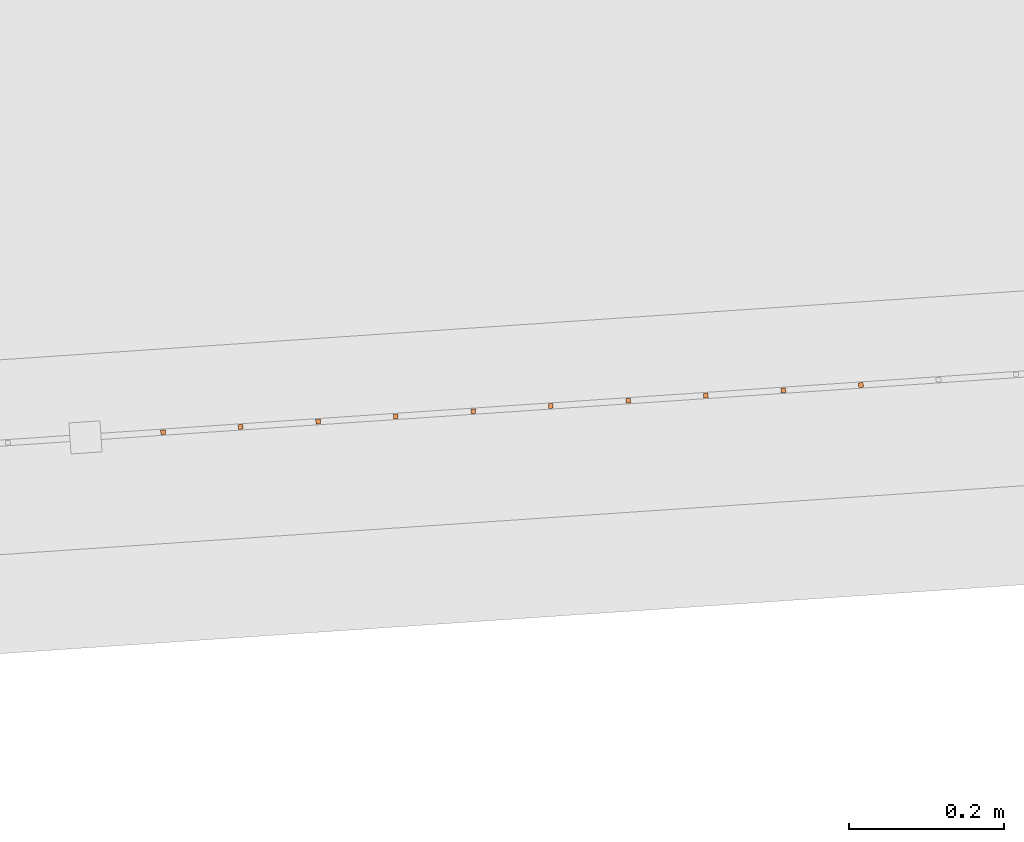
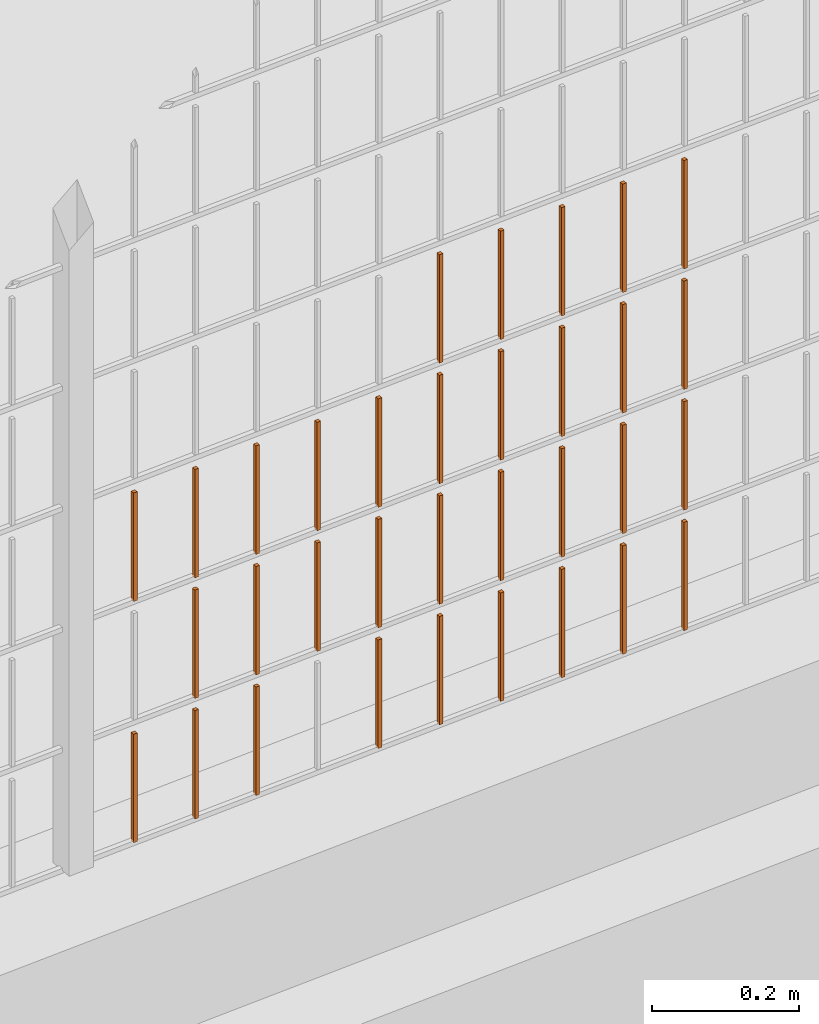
# One storey, part 307 of 1809: 33 proxies, 1 element without a shape of its own.
"""IFC2X3 building model written with IfcOpenShell, lengths in millimetres."""

from ifc_helpers import new_model, entity, si_unit, converted_unit, derived_unit, money_unit, direction, frame, origin_with_axes, place, context, subcontext, project, spatial, faceted_brep, source, transform, mapped, material, type_object, element, aggregate, save


model = new_model("IFC2X3")

# Units and contexts
model_context = context("Model", 3, precision=0.01, world=origin_with_axes(), true_north=direction((0.0, 1.0)))
body_context = subcontext(model_context, "Body", "Model", "MODEL_VIEW")
ifc_project = project(units=[si_unit("LENGTHUNIT", "METRE", prefix="MILLI"), si_unit("AREAUNIT", "SQUARE_METRE"), si_unit("VOLUMEUNIT", "CUBIC_METRE"), converted_unit("PLANEANGLEUNIT", "DEGREE", entity("IfcPlaneAngleMeasure", 0.0174532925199), si_unit("PLANEANGLEUNIT", "RADIAN"), dimensions=[0, 0, 0, 0, 0, 0, 0]), si_unit("SOLIDANGLEUNIT", "STERADIAN"), money_unit("EUR"), converted_unit("TIMEUNIT", "Year", entity("IfcTimeMeasure", 31556926.0), si_unit("TIMEUNIT", "SECOND"), dimensions=[0, 0, 1, 0, 0, 0, 0]), si_unit("MASSUNIT", "GRAM", prefix="KILO"), si_unit("THERMODYNAMICTEMPERATUREUNIT", "DEGREE_CELSIUS"), si_unit("LUMINOUSINTENSITYUNIT", "LUMEN"), si_unit("ENERGYUNIT", "JOULE", prefix="MEGA"), derived_unit("THERMALCONDUCTANCEUNIT", [(si_unit("POWERUNIT", "WATT"), 1), (si_unit("LENGTHUNIT", "METRE"), -1), (si_unit("THERMODYNAMICTEMPERATUREUNIT", "KELVIN"), -1)]), derived_unit("SPECIFICHEATCAPACITYUNIT", [(si_unit("ENERGYUNIT", "JOULE"), 1), (si_unit("MASSUNIT", "GRAM", prefix="KILO"), -1), (si_unit("THERMODYNAMICTEMPERATUREUNIT", "KELVIN"), -1)]), derived_unit("MASSDENSITYUNIT", [(si_unit("MASSUNIT", "GRAM", prefix="KILO"), 1), (si_unit("VOLUMEUNIT", "CUBIC_METRE"), -1)])], contexts=[model_context])

# Site, building, storey
site_placement = place(None, origin_with_axes())
site = spatial("IfcSite", under=ifc_project, at=site_placement, Name="Politse- ja Piirivalveameti ning Päästeameti ühishoone", CompositionType="ELEMENT")
building_placement = place(site_placement, origin_with_axes())
building = spatial("IfcBuilding", under=site, at=building_placement, Name="Politse- ja Piirivalveameti ning Päästeameti ühishoone", CompositionType="ELEMENT")
storey_placement = place(building_placement, origin_with_axes())
storey = spatial("IfcBuildingStorey", under=building, at=storey_placement, Name="Esimene korrus", CompositionType="ELEMENT", Elevation=0.0)

# Proxies
building_element_proxy_type_1 = type_object("IfcBuildingElementProxyType", Name="Railing Type", PredefinedType="NOTDEFINED")
proxy_1_placement = place(storey_placement, frame((89252.001212, -29183.4766571, 203.661247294), z_axis=(0.0, 0.0, 1.0), x_axis=(1.0, 0.0, 0.0)))
proxy_1 = element("IfcBuildingElementProxy", 1, at=proxy_1_placement, inside=storey, type_object=building_element_proxy_type_1, Name="PIIRDEAED")
ifc_material = material(Name="ET-03_Raud")
building_element_proxy_type_2 = type_object("IfcBuildingElementProxyType", Name="IfcBuildingElementProxy", PredefinedType="NOTDEFINED")
shared_shape_1 = source(origin_with_axes(), body_context, "Body", "Brep", [
    faceted_brep([(3.0, 3.0, -0.000752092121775), (-3.0, 3.0, -0.000752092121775), (-3.0, 3.0, 179.99926046), (3.0, 3.0, 179.99926046), (3.0, -3.0, 0.000752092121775), (-3.0, -3.0, 0.000752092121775), (-3.0, -3.0, 180.000764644), (3.0, -3.0, 180.000764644)], [[[0, 1, 2, 3]], [[0, 4, 5, 1]], [[1, 5, 6, 2]], [[3, 2, 6, 7]], [[4, 0, 3, 7]], [[5, 4, 7, 6]]]),
])
proxy_2_placement = place(proxy_1_placement, frame((-41631.8236059, -20109.8473334, 416.773614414), z_axis=(0.0, 0.0, 1.0), x_axis=(1.0, 0.0, 0.0)))
proxy_2 = element("IfcBuildingElementProxy", 2, at=proxy_2_placement, type_object=building_element_proxy_type_2, material=ifc_material, Name="BALUSTER - 001", context=body_context, shape_type="MappedRepresentation", body=[
    mapped(shared_shape_1, transform((0.0, 0.0, 0.0), x_axis=(-0.0673926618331, 0.997726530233, 0.0), y_axis=(-0.997726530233, -0.0673926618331, 0.0), z_axis=(0.0, 0.0, 1.0))),
])
shared_shape_2 = source(origin_with_axes(), body_context, "Body", "Brep", [
    faceted_brep([(3.0, 3.0, -0.000752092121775), (-3.0, 3.0, -0.000752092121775), (-3.0, 3.0, 179.99926046), (3.0, 3.0, 179.99926046), (3.0, -3.0, 0.000752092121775), (-3.0, -3.0, 0.000752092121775), (-3.0, -3.0, 180.000764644), (3.0, -3.0, 180.000764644)], [[[0, 1, 2, 3]], [[0, 4, 5, 1]], [[1, 5, 6, 2]], [[3, 2, 6, 7]], [[4, 0, 3, 7]], [[5, 4, 7, 6]]]),
])
proxy_3_placement = place(proxy_1_placement, frame((-41631.8236059, -20109.8473334, 616.773614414), z_axis=(0.0, 0.0, 1.0), x_axis=(1.0, 0.0, 0.0)))
proxy_3 = element("IfcBuildingElementProxy", 3, at=proxy_3_placement, type_object=building_element_proxy_type_2, material=ifc_material, Name="BALUSTER - 001", context=body_context, shape_type="MappedRepresentation", body=[
    mapped(shared_shape_2, transform((0.0, 0.0, 0.0), x_axis=(-0.0673926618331, 0.997726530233, 0.0), y_axis=(-0.997726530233, -0.0673926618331, 0.0), z_axis=(0.0, 0.0, 1.0))),
])
shared_shape_3 = source(origin_with_axes(), body_context, "Body", "Brep", [
    faceted_brep([(3.0, 3.0, -0.000752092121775), (-3.0, 3.0, -0.000752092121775), (-3.0, 3.0, 179.99926046), (3.0, 3.0, 179.99926046), (3.0, -3.0, 0.000752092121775), (-3.0, -3.0, 0.000752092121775), (-3.0, -3.0, 180.000764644), (3.0, -3.0, 180.000764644)], [[[0, 1, 2, 3]], [[0, 4, 5, 1]], [[1, 5, 6, 2]], [[3, 2, 6, 7]], [[4, 0, 3, 7]], [[5, 4, 7, 6]]]),
])
proxy_4_placement = place(proxy_1_placement, frame((-41631.8236059, -20109.8473334, 16.7736144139), z_axis=(0.0, 0.0, 1.0), x_axis=(1.0, 0.0, 0.0)))
proxy_4 = element("IfcBuildingElementProxy", 4, at=proxy_4_placement, type_object=building_element_proxy_type_2, material=ifc_material, Name="BALUSTER - 001", context=body_context, shape_type="MappedRepresentation", body=[
    mapped(shared_shape_3, transform((0.0, 0.0, 0.0), x_axis=(-0.0673926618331, 0.997726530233, 0.0), y_axis=(-0.997726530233, -0.0673926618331, 0.0), z_axis=(0.0, 0.0, 1.0))),
])
shared_shape_4 = source(origin_with_axes(), body_context, "Body", "Brep", [
    faceted_brep([(3.0, 3.0, -0.000752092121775), (-3.0, 3.0, -0.000752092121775), (-3.0, 3.0, 179.99926046), (3.0, 3.0, 179.99926046), (3.0, -3.0, 0.000752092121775), (-3.0, -3.0, 0.000752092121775), (-3.0, -3.0, 180.000764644), (3.0, -3.0, 180.000764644)], [[[0, 1, 2, 3]], [[0, 4, 5, 1]], [[1, 5, 6, 2]], [[3, 2, 6, 7]], [[4, 0, 3, 7]], [[5, 4, 7, 6]]]),
])
proxy_5_placement = place(proxy_1_placement, frame((-41631.8236059, -20109.8473334, 216.773614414), z_axis=(0.0, 0.0, 1.0), x_axis=(1.0, 0.0, 0.0)))
proxy_5 = element("IfcBuildingElementProxy", 5, at=proxy_5_placement, type_object=building_element_proxy_type_2, material=ifc_material, Name="BALUSTER - 001", context=body_context, shape_type="MappedRepresentation", body=[
    mapped(shared_shape_4, transform((0.0, 0.0, 0.0), x_axis=(-0.0673926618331, 0.997726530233, 0.0), y_axis=(-0.997726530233, -0.0673926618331, 0.0), z_axis=(0.0, 0.0, 1.0))),
])
shared_shape_5 = source(origin_with_axes(), body_context, "Body", "Brep", [
    faceted_brep([(3.0, 3.0, -0.000752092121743), (-3.0, 3.0, -0.000752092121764), (-3.0, 3.0, 179.99926046), (3.0, 3.0, 179.99926046), (3.0, -3.0, 0.000752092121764), (-3.0, -3.0, 0.000752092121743), (-3.0, -3.0, 180.000764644), (3.0, -3.0, 180.000764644)], [[[0, 1, 2, 3]], [[0, 4, 5, 1]], [[1, 5, 6, 2]], [[3, 2, 6, 7]], [[4, 0, 3, 7]], [[5, 4, 7, 6]]]),
])
proxy_6_placement = place(proxy_1_placement, frame((-41931.141565, -20130.0651319, 416.698405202), z_axis=(0.0, 0.0, 1.0), x_axis=(1.0, 0.0, 0.0)))
proxy_6 = element("IfcBuildingElementProxy", 6, at=proxy_6_placement, type_object=building_element_proxy_type_2, material=ifc_material, Name="BALUSTER - 001", context=body_context, shape_type="MappedRepresentation", body=[
    mapped(shared_shape_5, transform((0.0, 0.0, 0.0), x_axis=(-0.0673926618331, 0.997726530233, 0.0), y_axis=(-0.997726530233, -0.0673926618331, 0.0), z_axis=(0.0, 0.0, 1.0))),
])
shared_shape_6 = source(origin_with_axes(), body_context, "Body", "Brep", [
    faceted_brep([(3.0, 3.0, -0.000752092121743), (-3.0, 3.0, -0.000752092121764), (-3.0, 3.0, 179.99926046), (3.0, 3.0, 179.99926046), (3.0, -3.0, 0.000752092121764), (-3.0, -3.0, 0.000752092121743), (-3.0, -3.0, 180.000764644), (3.0, -3.0, 180.000764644)], [[[0, 1, 2, 3]], [[0, 4, 5, 1]], [[1, 5, 6, 2]], [[3, 2, 6, 7]], [[4, 0, 3, 7]], [[5, 4, 7, 6]]]),
])
proxy_7_placement = place(proxy_1_placement, frame((-41931.141565, -20130.0651319, 216.698405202), z_axis=(0.0, 0.0, 1.0), x_axis=(1.0, 0.0, 0.0)))
proxy_7 = element("IfcBuildingElementProxy", 7, at=proxy_7_placement, type_object=building_element_proxy_type_2, material=ifc_material, Name="BALUSTER - 001", context=body_context, shape_type="MappedRepresentation", body=[
    mapped(shared_shape_6, transform((0.0, 0.0, 0.0), x_axis=(-0.0673926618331, 0.997726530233, 0.0), y_axis=(-0.997726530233, -0.0673926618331, 0.0), z_axis=(0.0, 0.0, 1.0))),
])
shared_shape_7 = source(origin_with_axes(), body_context, "Body", "Brep", [
    faceted_brep([(3.0, 3.0, -0.000752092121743), (-3.0, 3.0, -0.000752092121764), (-3.0, 3.0, 179.99926046), (3.0, 3.0, 179.99926046), (3.0, -3.0, 0.000752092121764), (-3.0, -3.0, 0.000752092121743), (-3.0, -3.0, 180.000764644), (3.0, -3.0, 180.000764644)], [[[0, 1, 2, 3]], [[0, 4, 5, 1]], [[1, 5, 6, 2]], [[3, 2, 6, 7]], [[4, 0, 3, 7]], [[5, 4, 7, 6]]]),
])
proxy_8_placement = place(proxy_1_placement, frame((-41931.141565, -20130.0651319, 16.6984052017), z_axis=(0.0, 0.0, 1.0), x_axis=(1.0, 0.0, 0.0)))
proxy_8 = element("IfcBuildingElementProxy", 8, at=proxy_8_placement, type_object=building_element_proxy_type_2, material=ifc_material, Name="BALUSTER - 001", context=body_context, shape_type="MappedRepresentation", body=[
    mapped(shared_shape_7, transform((0.0, 0.0, 0.0), x_axis=(-0.0673926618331, 0.997726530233, 0.0), y_axis=(-0.997726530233, -0.0673926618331, 0.0), z_axis=(0.0, 0.0, 1.0))),
])
shared_shape_8 = source(origin_with_axes(), body_context, "Body", "Brep", [
    faceted_brep([(3.0, 3.0, -0.000752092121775), (-3.0, 3.0, -0.000752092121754), (-3.0, 3.0, 179.99926046), (3.0, 3.0, 179.99926046), (3.0, -3.0, 0.000752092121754), (-3.0, -3.0, 0.000752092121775), (-3.0, -3.0, 180.000764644), (3.0, -3.0, 180.000764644)], [[[0, 1, 2, 3]], [[0, 4, 5, 1]], [[1, 5, 6, 2]], [[3, 2, 6, 7]], [[4, 0, 3, 7]], [[5, 4, 7, 6]]]),
])
proxy_9_placement = place(proxy_1_placement, frame((-42130.686871, -20143.5436643, 16.6482657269), z_axis=(0.0, 0.0, 1.0), x_axis=(1.0, 0.0, 0.0)))
proxy_9 = element("IfcBuildingElementProxy", 9, at=proxy_9_placement, type_object=building_element_proxy_type_2, material=ifc_material, Name="BALUSTER - 001", context=body_context, shape_type="MappedRepresentation", body=[
    mapped(shared_shape_8, transform((0.0, 0.0, 0.0), x_axis=(-0.0673926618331, 0.997726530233, 0.0), y_axis=(-0.997726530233, -0.0673926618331, 0.0), z_axis=(0.0, 0.0, 1.0))),
])
shared_shape_9 = source(origin_with_axes(), body_context, "Body", "Brep", [
    faceted_brep([(3.0, 3.0, -0.000752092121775), (-3.0, 3.0, -0.000752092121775), (-3.0, 3.0, 179.99926046), (3.0, 3.0, 179.99926046), (3.0, -3.0, 0.000752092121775), (-3.0, -3.0, 0.000752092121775), (-3.0, -3.0, 180.000764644), (3.0, -3.0, 180.000764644)], [[[0, 1, 2, 3]], [[0, 4, 5, 1]], [[1, 5, 6, 2]], [[3, 2, 6, 7]], [[4, 0, 3, 7]], [[5, 4, 7, 6]]]),
])
proxy_10_placement = place(proxy_1_placement, frame((-41432.2782999, -20096.368801, 216.823753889), z_axis=(0.0, 0.0, 1.0), x_axis=(1.0, 0.0, 0.0)))
proxy_10 = element("IfcBuildingElementProxy", 10, at=proxy_10_placement, type_object=building_element_proxy_type_2, material=ifc_material, Name="BALUSTER - 001", context=body_context, shape_type="MappedRepresentation", body=[
    mapped(shared_shape_9, transform((0.0, 0.0, 0.0), x_axis=(-0.0673926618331, 0.997726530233, 0.0), y_axis=(-0.997726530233, -0.0673926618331, 0.0), z_axis=(0.0, 0.0, 1.0))),
])
proxy_11_placement = place(proxy_1_placement, frame((-41432.2782999, -20096.368801, 616.823753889), z_axis=(0.0, 0.0, 1.0), x_axis=(1.0, 0.0, 0.0)))
proxy_11 = element("IfcBuildingElementProxy", 11, at=proxy_11_placement, type_object=building_element_proxy_type_2, material=ifc_material, Name="BALUSTER - 001", context=body_context, shape_type="MappedRepresentation", body=[
    mapped(shared_shape_9, transform((0.0, 0.0, 0.0), x_axis=(-0.0673926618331, 0.997726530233, 0.0), y_axis=(-0.997726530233, -0.0673926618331, 0.0), z_axis=(0.0, 0.0, 1.0))),
])
shared_shape_10 = source(origin_with_axes(), body_context, "Body", "Brep", [
    faceted_brep([(3.0, 3.0, -0.000752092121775), (-3.0, 3.0, -0.000752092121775), (-3.0, 3.0, 179.99926046), (3.0, 3.0, 179.99926046), (3.0, -3.0, 0.000752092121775), (-3.0, -3.0, 0.000752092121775), (-3.0, -3.0, 180.000764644), (3.0, -3.0, 180.000764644)], [[[0, 1, 2, 3]], [[0, 4, 5, 1]], [[1, 5, 6, 2]], [[3, 2, 6, 7]], [[4, 0, 3, 7]], [[5, 4, 7, 6]]]),
])
proxy_12_placement = place(proxy_1_placement, frame((-41432.2782999, -20096.368801, 16.8237538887), z_axis=(0.0, 0.0, 1.0), x_axis=(1.0, 0.0, 0.0)))
proxy_12 = element("IfcBuildingElementProxy", 12, at=proxy_12_placement, type_object=building_element_proxy_type_2, material=ifc_material, Name="BALUSTER - 001", context=body_context, shape_type="MappedRepresentation", body=[
    mapped(shared_shape_10, transform((0.0, 0.0, 0.0), x_axis=(-0.0673926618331, 0.997726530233, 0.0), y_axis=(-0.997726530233, -0.0673926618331, 0.0), z_axis=(0.0, 0.0, 1.0))),
])
shared_shape_11 = source(origin_with_axes(), body_context, "Body", "Brep", [
    faceted_brep([(3.0, 3.0, -0.000752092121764), (-3.0, 3.0, -0.000752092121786), (-3.0, 3.0, 179.99926046), (3.0, 3.0, 179.99926046), (3.0, -3.0, 0.000752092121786), (-3.0, -3.0, 0.000752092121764), (-3.0, -3.0, 180.000764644), (3.0, -3.0, 180.000764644)], [[[0, 1, 2, 3]], [[0, 4, 5, 1]], [[1, 5, 6, 2]], [[3, 2, 6, 7]], [[4, 0, 3, 7]], [[5, 4, 7, 6]]]),
])
proxy_13_placement = place(proxy_1_placement, frame((-41332.5056468, -20089.6295348, 16.8488236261), z_axis=(0.0, 0.0, 1.0), x_axis=(1.0, 0.0, 0.0)))
proxy_13 = element("IfcBuildingElementProxy", 13, at=proxy_13_placement, type_object=building_element_proxy_type_2, material=ifc_material, Name="BALUSTER - 001", context=body_context, shape_type="MappedRepresentation", body=[
    mapped(shared_shape_11, transform((0.0, 0.0, 0.0), x_axis=(-0.0673926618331, 0.997726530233, 0.0), y_axis=(-0.997726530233, -0.0673926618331, 0.0), z_axis=(0.0, 0.0, 1.0))),
])
shared_shape_12 = source(origin_with_axes(), body_context, "Body", "Brep", [
    faceted_brep([(3.0, 3.0, -0.000752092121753), (-3.0, 3.0, -0.000752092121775), (-3.0, 3.0, 179.99926046), (3.0, 3.0, 179.99926046), (3.0, -3.0, 0.000752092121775), (-3.0, -3.0, 0.000752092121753), (-3.0, -3.0, 180.000764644), (3.0, -3.0, 180.000764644)], [[[0, 1, 2, 3]], [[0, 4, 5, 1]], [[1, 5, 6, 2]], [[3, 2, 6, 7]], [[4, 0, 3, 7]], [[5, 4, 7, 6]]]),
])
proxy_14_placement = place(proxy_1_placement, frame((-41232.7329938, -20082.8902686, 216.873893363), z_axis=(0.0, 0.0, 1.0), x_axis=(1.0, 0.0, 0.0)))
proxy_14 = element("IfcBuildingElementProxy", 14, at=proxy_14_placement, type_object=building_element_proxy_type_2, material=ifc_material, Name="BALUSTER - 001", context=body_context, shape_type="MappedRepresentation", body=[
    mapped(shared_shape_12, transform((0.0, 0.0, 0.0), x_axis=(-0.0673926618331, 0.997726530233, 0.0), y_axis=(-0.997726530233, -0.0673926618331, 0.0), z_axis=(0.0, 0.0, 1.0))),
])
shared_shape_13 = source(origin_with_axes(), body_context, "Body", "Brep", [
    faceted_brep([(3.0, 3.0, -0.000752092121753), (-3.0, 3.0, -0.000752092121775), (-3.0, 3.0, 179.99926046), (3.0, 3.0, 179.99926046), (3.0, -3.0, 0.000752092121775), (-3.0, -3.0, 0.000752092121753), (-3.0, -3.0, 180.000764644), (3.0, -3.0, 180.000764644)], [[[0, 1, 2, 3]], [[0, 4, 5, 1]], [[1, 5, 6, 2]], [[3, 2, 6, 7]], [[4, 0, 3, 7]], [[5, 4, 7, 6]]]),
])
proxy_15_placement = place(proxy_1_placement, frame((-41232.7329938, -20082.8902686, 416.873893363), z_axis=(0.0, 0.0, 1.0), x_axis=(1.0, 0.0, 0.0)))
proxy_15 = element("IfcBuildingElementProxy", 15, at=proxy_15_placement, type_object=building_element_proxy_type_2, material=ifc_material, Name="BALUSTER - 001", context=body_context, shape_type="MappedRepresentation", body=[
    mapped(shared_shape_13, transform((0.0, 0.0, 0.0), x_axis=(-0.0673926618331, 0.997726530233, 0.0), y_axis=(-0.997726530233, -0.0673926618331, 0.0), z_axis=(0.0, 0.0, 1.0))),
])
shared_shape_14 = source(origin_with_axes(), body_context, "Body", "Brep", [
    faceted_brep([(3.0, 3.0, -0.000752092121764), (-3.0, 3.0, -0.000752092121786), (-3.0, 3.0, 179.99926046), (3.0, 3.0, 179.99926046), (3.0, -3.0, 0.000752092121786), (-3.0, -3.0, 0.000752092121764), (-3.0, -3.0, 180.000764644), (3.0, -3.0, 180.000764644)], [[[0, 1, 2, 3]], [[0, 4, 5, 1]], [[1, 5, 6, 2]], [[3, 2, 6, 7]], [[4, 0, 3, 7]], [[5, 4, 7, 6]]]),
])
proxy_16_placement = place(proxy_1_placement, frame((-41332.5056468, -20089.6295348, 216.848823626), z_axis=(0.0, 0.0, 1.0), x_axis=(1.0, 0.0, 0.0)))
proxy_16 = element("IfcBuildingElementProxy", 16, at=proxy_16_placement, type_object=building_element_proxy_type_2, material=ifc_material, Name="BALUSTER - 001", context=body_context, shape_type="MappedRepresentation", body=[
    mapped(shared_shape_14, transform((0.0, 0.0, 0.0), x_axis=(-0.0673926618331, 0.997726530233, 0.0), y_axis=(-0.997726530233, -0.0673926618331, 0.0), z_axis=(0.0, 0.0, 1.0))),
])
proxy_17_placement = place(proxy_1_placement, frame((-41332.5056468, -20089.6295348, 416.848823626), z_axis=(0.0, 0.0, 1.0), x_axis=(1.0, 0.0, 0.0)))
proxy_17 = element("IfcBuildingElementProxy", 17, at=proxy_17_placement, type_object=building_element_proxy_type_2, material=ifc_material, Name="BALUSTER - 001", context=body_context, shape_type="MappedRepresentation", body=[
    mapped(shared_shape_14, transform((0.0, 0.0, 0.0), x_axis=(-0.0673926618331, 0.997726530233, 0.0), y_axis=(-0.997726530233, -0.0673926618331, 0.0), z_axis=(0.0, 0.0, 1.0))),
])
shared_shape_15 = source(origin_with_axes(), body_context, "Body", "Brep", [
    faceted_brep([(3.0, 3.0, -0.000752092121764), (-3.0, 3.0, -0.000752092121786), (-3.0, 3.0, 179.99926046), (3.0, 3.0, 179.99926046), (3.0, -3.0, 0.000752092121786), (-3.0, -3.0, 0.000752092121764), (-3.0, -3.0, 180.000764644), (3.0, -3.0, 180.000764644)], [[[0, 1, 2, 3]], [[0, 4, 5, 1]], [[1, 5, 6, 2]], [[3, 2, 6, 7]], [[4, 0, 3, 7]], [[5, 4, 7, 6]]]),
])
proxy_18_placement = place(proxy_1_placement, frame((-41532.0509529, -20103.1080672, 416.798684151), z_axis=(0.0, 0.0, 1.0), x_axis=(1.0, 0.0, 0.0)))
proxy_18 = element("IfcBuildingElementProxy", 18, at=proxy_18_placement, type_object=building_element_proxy_type_2, material=ifc_material, Name="BALUSTER - 001", context=body_context, shape_type="MappedRepresentation", body=[
    mapped(shared_shape_15, transform((0.0, 0.0, 0.0), x_axis=(-0.0673926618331, 0.997726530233, 0.0), y_axis=(-0.997726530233, -0.0673926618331, 0.0), z_axis=(0.0, 0.0, 1.0))),
])
shared_shape_16 = source(origin_with_axes(), body_context, "Body", "Brep", [
    faceted_brep([(3.0, 3.0, -0.000752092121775), (-3.0, 3.0, -0.000752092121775), (-3.0, 3.0, 179.99926046), (3.0, 3.0, 179.99926046), (3.0, -3.0, 0.000752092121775), (-3.0, -3.0, 0.000752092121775), (-3.0, -3.0, 180.000764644), (3.0, -3.0, 180.000764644)], [[[0, 1, 2, 3]], [[0, 4, 5, 1]], [[1, 5, 6, 2]], [[3, 2, 6, 7]], [[4, 0, 3, 7]], [[5, 4, 7, 6]]]),
])
proxy_19_placement = place(proxy_1_placement, frame((-41432.2782999, -20096.368801, 416.823753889), z_axis=(0.0, 0.0, 1.0), x_axis=(1.0, 0.0, 0.0)))
proxy_19 = element("IfcBuildingElementProxy", 19, at=proxy_19_placement, type_object=building_element_proxy_type_2, material=ifc_material, Name="BALUSTER - 001", context=body_context, shape_type="MappedRepresentation", body=[
    mapped(shared_shape_16, transform((0.0, 0.0, 0.0), x_axis=(-0.0673926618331, 0.997726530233, 0.0), y_axis=(-0.997726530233, -0.0673926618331, 0.0), z_axis=(0.0, 0.0, 1.0))),
])
shared_shape_17 = source(origin_with_axes(), body_context, "Body", "Brep", [
    faceted_brep([(3.0, 3.0, -0.000752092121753), (-3.0, 3.0, -0.000752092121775), (-3.0, 3.0, 179.99926046), (3.0, 3.0, 179.99926046), (3.0, -3.0, 0.000752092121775), (-3.0, -3.0, 0.000752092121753), (-3.0, -3.0, 180.000764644), (3.0, -3.0, 180.000764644)], [[[0, 1, 2, 3]], [[0, 4, 5, 1]], [[1, 5, 6, 2]], [[3, 2, 6, 7]], [[4, 0, 3, 7]], [[5, 4, 7, 6]]]),
])
proxy_20_placement = place(proxy_1_placement, frame((-41232.7329938, -20082.8902686, 616.873893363), z_axis=(0.0, 0.0, 1.0), x_axis=(1.0, 0.0, 0.0)))
proxy_20 = element("IfcBuildingElementProxy", 20, at=proxy_20_placement, type_object=building_element_proxy_type_2, material=ifc_material, Name="BALUSTER - 001", context=body_context, shape_type="MappedRepresentation", body=[
    mapped(shared_shape_17, transform((0.0, 0.0, 0.0), x_axis=(-0.0673926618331, 0.997726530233, 0.0), y_axis=(-0.997726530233, -0.0673926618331, 0.0), z_axis=(0.0, 0.0, 1.0))),
])
shared_shape_18 = source(origin_with_axes(), body_context, "Body", "Brep", [
    faceted_brep([(3.0, 3.0, -0.000752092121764), (-3.0, 3.0, -0.000752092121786), (-3.0, 3.0, 179.99926046), (3.0, 3.0, 179.99926046), (3.0, -3.0, 0.000752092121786), (-3.0, -3.0, 0.000752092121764), (-3.0, -3.0, 180.000764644), (3.0, -3.0, 180.000764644)], [[[0, 1, 2, 3]], [[0, 4, 5, 1]], [[1, 5, 6, 2]], [[3, 2, 6, 7]], [[4, 0, 3, 7]], [[5, 4, 7, 6]]]),
])
proxy_21_placement = place(proxy_1_placement, frame((-41532.0509529, -20103.1080672, 616.798684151), z_axis=(0.0, 0.0, 1.0), x_axis=(1.0, 0.0, 0.0)))
proxy_21 = element("IfcBuildingElementProxy", 21, at=proxy_21_placement, type_object=building_element_proxy_type_2, material=ifc_material, Name="BALUSTER - 001", context=body_context, shape_type="MappedRepresentation", body=[
    mapped(shared_shape_18, transform((0.0, 0.0, 0.0), x_axis=(-0.0673926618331, 0.997726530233, 0.0), y_axis=(-0.997726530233, -0.0673926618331, 0.0), z_axis=(0.0, 0.0, 1.0))),
])
shared_shape_19 = source(origin_with_axes(), body_context, "Body", "Brep", [
    faceted_brep([(3.0, 3.0, -0.000752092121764), (-3.0, 3.0, -0.000752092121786), (-3.0, 3.0, 179.99926046), (3.0, 3.0, 179.99926046), (3.0, -3.0, 0.000752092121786), (-3.0, -3.0, 0.000752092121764), (-3.0, -3.0, 180.000764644), (3.0, -3.0, 180.000764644)], [[[0, 1, 2, 3]], [[0, 4, 5, 1]], [[1, 5, 6, 2]], [[3, 2, 6, 7]], [[4, 0, 3, 7]], [[5, 4, 7, 6]]]),
])
proxy_22_placement = place(proxy_1_placement, frame((-41332.5056468, -20089.6295348, 616.848823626), z_axis=(0.0, 0.0, 1.0), x_axis=(1.0, 0.0, 0.0)))
proxy_22 = element("IfcBuildingElementProxy", 22, at=proxy_22_placement, type_object=building_element_proxy_type_2, material=ifc_material, Name="BALUSTER - 001", context=body_context, shape_type="MappedRepresentation", body=[
    mapped(shared_shape_19, transform((0.0, 0.0, 0.0), x_axis=(-0.0673926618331, 0.997726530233, 0.0), y_axis=(-0.997726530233, -0.0673926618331, 0.0), z_axis=(0.0, 0.0, 1.0))),
])
shared_shape_20 = source(origin_with_axes(), body_context, "Body", "Brep", [
    faceted_brep([(3.0, 3.0, -0.000752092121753), (-3.0, 3.0, -0.000752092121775), (-3.0, 3.0, 179.99926046), (3.0, 3.0, 179.99926046), (3.0, -3.0, 0.000752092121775), (-3.0, -3.0, 0.000752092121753), (-3.0, -3.0, 180.000764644), (3.0, -3.0, 180.000764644)], [[[0, 1, 2, 3]], [[0, 4, 5, 1]], [[1, 5, 6, 2]], [[3, 2, 6, 7]], [[4, 0, 3, 7]], [[5, 4, 7, 6]]]),
])
proxy_23_placement = place(proxy_1_placement, frame((-41232.7329938, -20082.8902686, 16.8738933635), z_axis=(0.0, 0.0, 1.0), x_axis=(1.0, 0.0, 0.0)))
proxy_23 = element("IfcBuildingElementProxy", 23, at=proxy_23_placement, type_object=building_element_proxy_type_2, material=ifc_material, Name="BALUSTER - 001", context=body_context, shape_type="MappedRepresentation", body=[
    mapped(shared_shape_20, transform((0.0, 0.0, 0.0), x_axis=(-0.0673926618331, 0.997726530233, 0.0), y_axis=(-0.997726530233, -0.0673926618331, 0.0), z_axis=(0.0, 0.0, 1.0))),
])
shared_shape_21 = source(origin_with_axes(), body_context, "Body", "Brep", [
    faceted_brep([(3.0, 3.0, -0.000752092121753), (-3.0, 3.0, -0.000752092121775), (-3.0, 3.0, 179.99926046), (3.0, 3.0, 179.99926046), (3.0, -3.0, 0.000752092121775), (-3.0, -3.0, 0.000752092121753), (-3.0, -3.0, 180.000764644), (3.0, -3.0, 180.000764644)], [[[0, 1, 2, 3]], [[0, 4, 5, 1]], [[1, 5, 6, 2]], [[3, 2, 6, 7]], [[4, 0, 3, 7]], [[5, 4, 7, 6]]]),
])
proxy_24_placement = place(proxy_1_placement, frame((-42030.914218, -20136.8043981, 16.6733354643), z_axis=(0.0, 0.0, 1.0), x_axis=(1.0, 0.0, 0.0)))
proxy_24 = element("IfcBuildingElementProxy", 24, at=proxy_24_placement, type_object=building_element_proxy_type_2, material=ifc_material, Name="BALUSTER - 001", context=body_context, shape_type="MappedRepresentation", body=[
    mapped(shared_shape_21, transform((0.0, 0.0, 0.0), x_axis=(-0.0673926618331, 0.997726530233, 0.0), y_axis=(-0.997726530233, -0.0673926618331, 0.0), z_axis=(0.0, 0.0, 1.0))),
])
shared_shape_22 = source(origin_with_axes(), body_context, "Body", "Brep", [
    faceted_brep([(3.0, 3.0, -0.000752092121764), (-3.0, 3.0, -0.000752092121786), (-3.0, 3.0, 179.99926046), (3.0, 3.0, 179.99926046), (3.0, -3.0, 0.000752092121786), (-3.0, -3.0, 0.000752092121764), (-3.0, -3.0, 180.000764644), (3.0, -3.0, 180.000764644)], [[[0, 1, 2, 3]], [[0, 4, 5, 1]], [[1, 5, 6, 2]], [[3, 2, 6, 7]], [[4, 0, 3, 7]], [[5, 4, 7, 6]]]),
])
proxy_25_placement = place(proxy_1_placement, frame((-41532.0509529, -20103.1080672, 16.7986841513), z_axis=(0.0, 0.0, 1.0), x_axis=(1.0, 0.0, 0.0)))
proxy_25 = element("IfcBuildingElementProxy", 25, at=proxy_25_placement, type_object=building_element_proxy_type_2, material=ifc_material, Name="BALUSTER - 001", context=body_context, shape_type="MappedRepresentation", body=[
    mapped(shared_shape_22, transform((0.0, 0.0, 0.0), x_axis=(-0.0673926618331, 0.997726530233, 0.0), y_axis=(-0.997726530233, -0.0673926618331, 0.0), z_axis=(0.0, 0.0, 1.0))),
])
shared_shape_23 = source(origin_with_axes(), body_context, "Body", "Brep", [
    faceted_brep([(3.0, 3.0, -0.000752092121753), (-3.0, 3.0, -0.000752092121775), (-3.0, 3.0, 179.99926046), (3.0, 3.0, 179.99926046), (3.0, -3.0, 0.000752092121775), (-3.0, -3.0, 0.000752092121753), (-3.0, -3.0, 180.000764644), (3.0, -3.0, 180.000764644)], [[[0, 1, 2, 3]], [[0, 4, 5, 1]], [[1, 5, 6, 2]], [[3, 2, 6, 7]], [[4, 0, 3, 7]], [[5, 4, 7, 6]]]),
])
proxy_26_placement = place(proxy_1_placement, frame((-42030.914218, -20136.8043981, 216.673335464), z_axis=(0.0, 0.0, 1.0), x_axis=(1.0, 0.0, 0.0)))
proxy_26 = element("IfcBuildingElementProxy", 26, at=proxy_26_placement, type_object=building_element_proxy_type_2, material=ifc_material, Name="BALUSTER - 001", context=body_context, shape_type="MappedRepresentation", body=[
    mapped(shared_shape_23, transform((0.0, 0.0, 0.0), x_axis=(-0.0673926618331, 0.997726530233, 0.0), y_axis=(-0.997726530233, -0.0673926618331, 0.0), z_axis=(0.0, 0.0, 1.0))),
])
proxy_27_placement = place(proxy_1_placement, frame((-42030.914218, -20136.8043981, 416.673335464), z_axis=(0.0, 0.0, 1.0), x_axis=(1.0, 0.0, 0.0)))
proxy_27 = element("IfcBuildingElementProxy", 27, at=proxy_27_placement, type_object=building_element_proxy_type_2, material=ifc_material, Name="BALUSTER - 001", context=body_context, shape_type="MappedRepresentation", body=[
    mapped(shared_shape_23, transform((0.0, 0.0, 0.0), x_axis=(-0.0673926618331, 0.997726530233, 0.0), y_axis=(-0.997726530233, -0.0673926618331, 0.0), z_axis=(0.0, 0.0, 1.0))),
])
shared_shape_24 = source(origin_with_axes(), body_context, "Body", "Brep", [
    faceted_brep([(3.0, 3.0, -0.000752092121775), (-3.0, 3.0, -0.000752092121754), (-3.0, 3.0, 179.99926046), (3.0, 3.0, 179.99926046), (3.0, -3.0, 0.000752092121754), (-3.0, -3.0, 0.000752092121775), (-3.0, -3.0, 180.000764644), (3.0, -3.0, 180.000764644)], [[[0, 1, 2, 3]], [[0, 4, 5, 1]], [[1, 5, 6, 2]], [[3, 2, 6, 7]], [[4, 0, 3, 7]], [[5, 4, 7, 6]]]),
])
proxy_28_placement = place(proxy_1_placement, frame((-42130.686871, -20143.5436643, 416.648265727), z_axis=(0.0, 0.0, 1.0), x_axis=(1.0, 0.0, 0.0)))
proxy_28 = element("IfcBuildingElementProxy", 28, at=proxy_28_placement, type_object=building_element_proxy_type_2, material=ifc_material, Name="BALUSTER - 001", context=body_context, shape_type="MappedRepresentation", body=[
    mapped(shared_shape_24, transform((0.0, 0.0, 0.0), x_axis=(-0.0673926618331, 0.997726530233, 0.0), y_axis=(-0.997726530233, -0.0673926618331, 0.0), z_axis=(0.0, 0.0, 1.0))),
])
shared_shape_25 = source(origin_with_axes(), body_context, "Body", "Brep", [
    faceted_brep([(3.0, 3.0, -0.000752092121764), (-3.0, 3.0, -0.000752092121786), (-3.0, 3.0, 179.99926046), (3.0, 3.0, 179.99926046), (3.0, -3.0, 0.000752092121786), (-3.0, -3.0, 0.000752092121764), (-3.0, -3.0, 180.000764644), (3.0, -3.0, 180.000764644)], [[[0, 1, 2, 3]], [[0, 4, 5, 1]], [[1, 5, 6, 2]], [[3, 2, 6, 7]], [[4, 0, 3, 7]], [[5, 4, 7, 6]]]),
])
proxy_29_placement = place(proxy_1_placement, frame((-41532.0509529, -20103.1080672, 216.798684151), z_axis=(0.0, 0.0, 1.0), x_axis=(1.0, 0.0, 0.0)))
proxy_29 = element("IfcBuildingElementProxy", 29, at=proxy_29_placement, type_object=building_element_proxy_type_2, material=ifc_material, Name="BALUSTER - 001", context=body_context, shape_type="MappedRepresentation", body=[
    mapped(shared_shape_25, transform((0.0, 0.0, 0.0), x_axis=(-0.0673926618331, 0.997726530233, 0.0), y_axis=(-0.997726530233, -0.0673926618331, 0.0), z_axis=(0.0, 0.0, 1.0))),
])
shared_shape_26 = source(origin_with_axes(), body_context, "Body", "Brep", [
    faceted_brep([(3.0, 3.0, -0.000752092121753), (-3.0, 3.0, -0.000752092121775), (-3.0, 3.0, 179.99926046), (3.0, 3.0, 179.99926046), (3.0, -3.0, 0.000752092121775), (-3.0, -3.0, 0.000752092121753), (-3.0, -3.0, 180.000764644), (3.0, -3.0, 180.000764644)], [[[0, 1, 2, 3]], [[0, 4, 5, 1]], [[1, 5, 6, 2]], [[3, 2, 6, 7]], [[4, 0, 3, 7]], [[5, 4, 7, 6]]]),
])
proxy_30_placement = place(proxy_1_placement, frame((-41731.5962589, -20116.5865995, 16.7485446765), z_axis=(0.0, 0.0, 1.0), x_axis=(1.0, 0.0, 0.0)))
proxy_30 = element("IfcBuildingElementProxy", 30, at=proxy_30_placement, type_object=building_element_proxy_type_2, material=ifc_material, Name="BALUSTER - 001", context=body_context, shape_type="MappedRepresentation", body=[
    mapped(shared_shape_26, transform((0.0, 0.0, 0.0), x_axis=(-0.0673926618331, 0.997726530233, 0.0), y_axis=(-0.997726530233, -0.0673926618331, 0.0), z_axis=(0.0, 0.0, 1.0))),
])
proxy_31_placement = place(proxy_1_placement, frame((-41731.5962589, -20116.5865995, 216.748544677), z_axis=(0.0, 0.0, 1.0), x_axis=(1.0, 0.0, 0.0)))
proxy_31 = element("IfcBuildingElementProxy", 31, at=proxy_31_placement, type_object=building_element_proxy_type_2, material=ifc_material, Name="BALUSTER - 001", context=body_context, shape_type="MappedRepresentation", body=[
    mapped(shared_shape_26, transform((0.0, 0.0, 0.0), x_axis=(-0.0673926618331, 0.997726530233, 0.0), y_axis=(-0.997726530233, -0.0673926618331, 0.0), z_axis=(0.0, 0.0, 1.0))),
])
shared_shape_27 = source(origin_with_axes(), body_context, "Body", "Brep", [
    faceted_brep([(3.0, 3.0, -0.000752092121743), (-3.0, 3.0, -0.000752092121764), (-3.0, 3.0, 179.99926046), (3.0, 3.0, 179.99926046), (3.0, -3.0, 0.000752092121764), (-3.0, -3.0, 0.000752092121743), (-3.0, -3.0, 180.000764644), (3.0, -3.0, 180.000764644)], [[[0, 1, 2, 3]], [[0, 4, 5, 1]], [[1, 5, 6, 2]], [[3, 2, 6, 7]], [[4, 0, 3, 7]], [[5, 4, 7, 6]]]),
])
proxy_32_placement = place(proxy_1_placement, frame((-41831.368912, -20123.3258657, 216.723474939), z_axis=(0.0, 0.0, 1.0), x_axis=(1.0, 0.0, 0.0)))
proxy_32 = element("IfcBuildingElementProxy", 32, at=proxy_32_placement, type_object=building_element_proxy_type_2, material=ifc_material, Name="BALUSTER - 001", context=body_context, shape_type="MappedRepresentation", body=[
    mapped(shared_shape_27, transform((0.0, 0.0, 0.0), x_axis=(-0.0673926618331, 0.997726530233, 0.0), y_axis=(-0.997726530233, -0.0673926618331, 0.0), z_axis=(0.0, 0.0, 1.0))),
])
proxy_33_placement = place(proxy_1_placement, frame((-41831.368912, -20123.3258657, 416.723474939), z_axis=(0.0, 0.0, 1.0), x_axis=(1.0, 0.0, 0.0)))
proxy_33 = element("IfcBuildingElementProxy", 33, at=proxy_33_placement, type_object=building_element_proxy_type_2, material=ifc_material, Name="BALUSTER - 001", context=body_context, shape_type="MappedRepresentation", body=[
    mapped(shared_shape_27, transform((0.0, 0.0, 0.0), x_axis=(-0.0673926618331, 0.997726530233, 0.0), y_axis=(-0.997726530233, -0.0673926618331, 0.0), z_axis=(0.0, 0.0, 1.0))),
])
shared_shape_28 = source(origin_with_axes(), body_context, "Body", "Brep", [
    faceted_brep([(3.0, 3.0, -0.000752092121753), (-3.0, 3.0, -0.000752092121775), (-3.0, 3.0, 179.99926046), (3.0, 3.0, 179.99926046), (3.0, -3.0, 0.000752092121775), (-3.0, -3.0, 0.000752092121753), (-3.0, -3.0, 180.000764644), (3.0, -3.0, 180.000764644)], [[[0, 1, 2, 3]], [[0, 4, 5, 1]], [[1, 5, 6, 2]], [[3, 2, 6, 7]], [[4, 0, 3, 7]], [[5, 4, 7, 6]]]),
])
proxy_34_placement = place(proxy_1_placement, frame((-41731.5962589, -20116.5865995, 416.748544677), z_axis=(0.0, 0.0, 1.0), x_axis=(1.0, 0.0, 0.0)))
proxy_34 = element("IfcBuildingElementProxy", 34, at=proxy_34_placement, type_object=building_element_proxy_type_2, material=ifc_material, Name="BALUSTER - 001", context=body_context, shape_type="MappedRepresentation", body=[
    mapped(shared_shape_28, transform((0.0, 0.0, 0.0), x_axis=(-0.0673926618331, 0.997726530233, 0.0), y_axis=(-0.997726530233, -0.0673926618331, 0.0), z_axis=(0.0, 0.0, 1.0))),
])
aggregate(proxy_1, [proxy_23, proxy_13, proxy_12, proxy_25, proxy_4, proxy_30, proxy_8, proxy_24, proxy_9, proxy_14, proxy_16, proxy_10, proxy_29, proxy_5, proxy_31, proxy_32, proxy_7, proxy_26, proxy_15, proxy_17, proxy_19, proxy_18, proxy_2, proxy_34, proxy_33, proxy_6, proxy_27, proxy_28, proxy_20, proxy_22, proxy_11, proxy_21, proxy_3])

save(model, "model.ifc")
